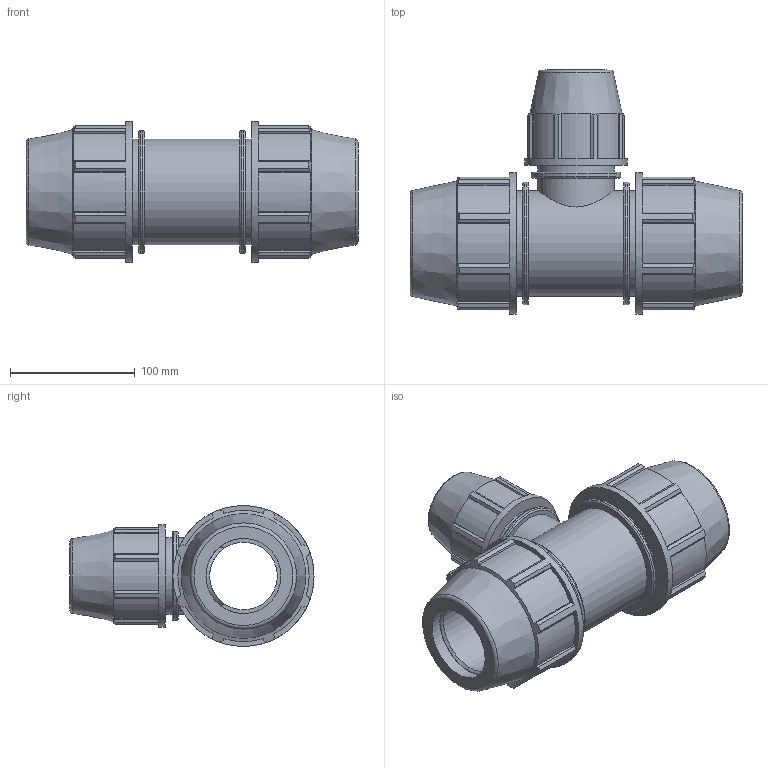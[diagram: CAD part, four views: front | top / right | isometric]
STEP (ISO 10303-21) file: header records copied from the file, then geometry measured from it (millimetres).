
FILE_DESCRIPTION(/* description */ ('PLASSON REDUCING TEE 2'''' - 1 1/4'''' - 2'''''),/* implementation_level */ '2;1');
FILE_NAME(/* name */ 'C:\Dropbox\KIMPROJECTS-Inventor 2019\99-16-3568-Processing Inch\ASTM Compression 2021\0734M0\0734M0020013.ipt.stp',/* time_stamp */ '2021-08-26T12:34:05+03:00',/* author */ ('Кирилл'),/* organization */ (''),/* preprocessor_version */ 'ST-DEVELOPER v17.2',/* originating_system */ 'Autodesk Inventor 2019',/* authorisation */ '');
FILE_SCHEMA (('AUTOMOTIVE_DESIGN { 1 0 10303 214 3 1 1 }'));
Length unit declared in the file: inch
Products named in the file (1): 0734M0020013
Bounding box: 265.94 x 195.45 x 113.03 mm (x, y, z)
Volume: 1424863.6 mm3; surface area: 201027 mm2
Topology: 1 solids, 1 shells, 201 faces, 596 edges, 410 vertices
Faces by surface type: plane 138, cylinder 42, cone 12, torus 9
Full cylindrical faces by diameter (mm): 37.89 x1, 42.1 x1, 54.09 x1, 60.1 x2, 61.531 x2, 71.377 x1, 82.042 x1, 84.772 x3, 98.336 x2, 113.03 x2
Entity records: 7283 total; most frequent: CARTESIAN_POINT 1539, ORIENTED_EDGE 1192, DIRECTION 1157, EDGE_CURVE 596, AXIS2_PLACEMENT_3D 418, VERTEX_POINT 410, LINE 321, VECTOR 321
